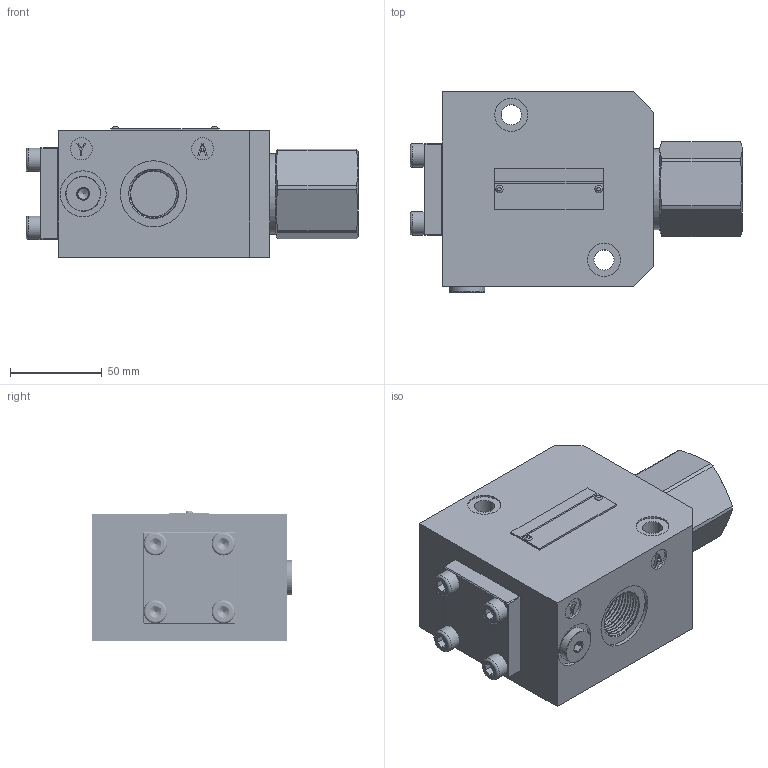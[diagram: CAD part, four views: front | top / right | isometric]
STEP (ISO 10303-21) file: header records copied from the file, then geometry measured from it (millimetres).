
FILE_DESCRIPTION(/* description */ (''),/* implementation_level */ '2;1');
FILE_NAME(/* name */ 'SV15G-3(4)-4XJ液控单向阀（管式）.prt.stp',/* time_stamp */ '2022-03-30T19:19:34+08:00',/* author */ (''),/* organization */ (''),/* preprocessor_version */ 'ST-DEVELOPER v16.7',/* originating_system */ 'SIEMENS PLM Software NX 12.0',/* authorisation */ '');
FILE_SCHEMA (('AUTOMOTIVE_DESIGN { 1 0 10303 214 3 1 1 1 }'));
Products named in the file (1): SV15G-3(4)-4XJ液控单向阀（管式）
Bounding box: 180.74 x 109 x 71 mm (x, y, z)
Volume: 956163.3 mm3; surface area: 103826.8 mm2
Topology: 12 solids, 12 shells, 443 faces, 1047 edges, 659 vertices
Faces by surface type: plane 210, cylinder 120, cone 42, bspline 38, extrusion 26, torus 7
Full cylindrical faces by diameter (mm): 1.8 x6, 3.4 x1, 6 x1, 6.7 x52, 9 x4, 11 x2, 12 x4, 12.3 x2, 12.73 x4, 16 x2, 18 x2, 19 x1, 25 x2, 36 x3, 44 x1
Entity records: 57838 total; most frequent: CARTESIAN_POINT 49145, ORIENTED_EDGE 1582, DIRECTION 1444, EDGE_CURVE 791, VERTEX_POINT 545, AXIS2_PLACEMENT_3D 519, EDGE_LOOP 517, VECTOR 406
